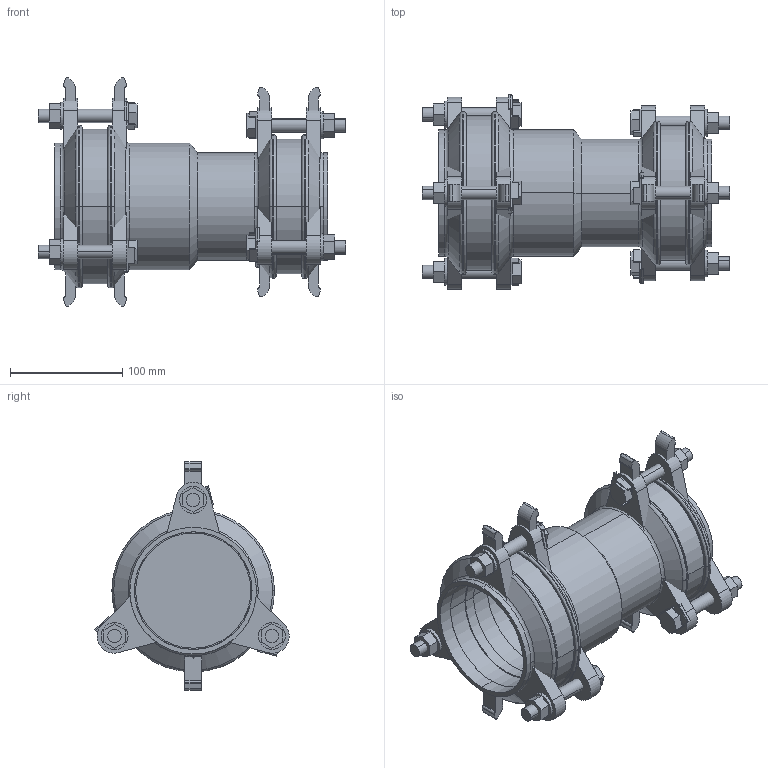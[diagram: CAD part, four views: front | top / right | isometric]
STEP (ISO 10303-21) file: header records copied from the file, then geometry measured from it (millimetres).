
FILE_DESCRIPTION(('STEP AP214'),'1');
FILE_NAME('MJ003937 DN 80-65.STP','2015-02-06T12:02:18',(' '),(' '),'Spatial InterOp 3D',' ',' ');
FILE_SCHEMA(('automotive_design'));
Length unit declared in the file: millimetre
Products named in the file (67): 3D-Objekt
Bounding box: 274 x 173.26 x 204 mm (x, y, z)
Volume: 1186579.5 mm3; surface area: 439367.7 mm2
Topology: 67 solids, 67 shells, 530 faces, 1184 edges, 788 vertices
Faces by surface type: plane 354, cylinder 134, torus 24, cone 18
Entity records: 20571 total; most frequent: DIRECTION 2750, CARTESIAN_POINT 2569, ORIENTED_EDGE 2368, EDGE_CURVE 1184, AXIS2_PLACEMENT_3D 969, LINE 812, VECTOR 812, VERTEX_POINT 788
